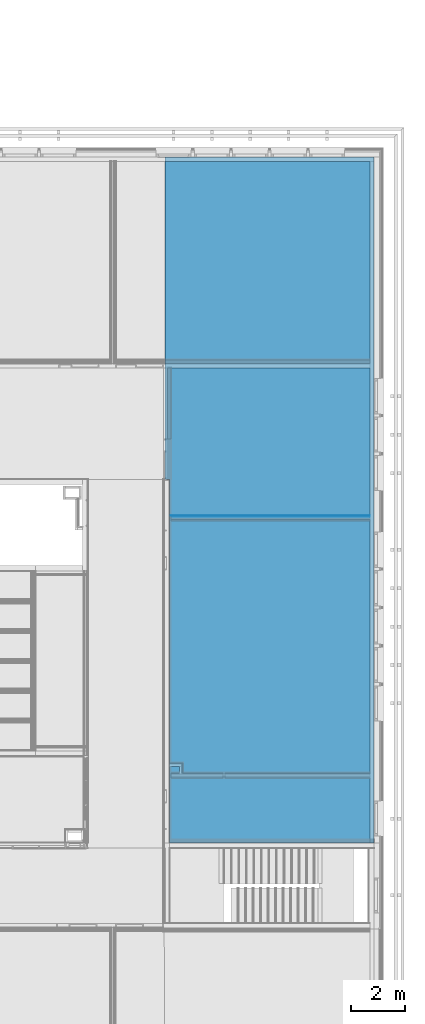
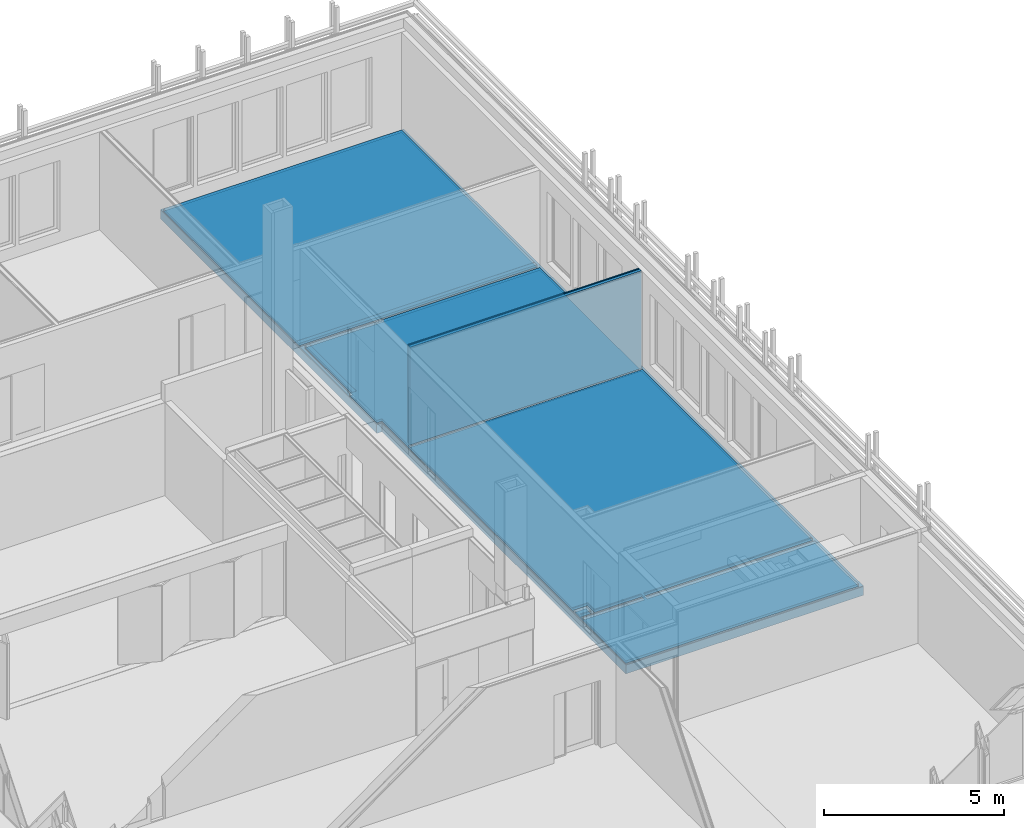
# One storey, part 121 of 139: 11 building element parts, 2 elements without a shape of their own.
"""IFC2X3 building model written with IfcOpenShell, lengths in millimetres."""

from ifc_helpers import new_model, entity, si_unit, converted_unit, derived_unit, money_unit, direction, frame, origin_with_axes, place, context, subcontext, project, spatial, faceted_brep, material, type_object, element, aggregate, save


model = new_model("IFC2X3")

# Units and contexts
model_context = context("Model", 3, precision=0.01, world=origin_with_axes(), true_north=direction((0.0, 1.0)))
body_context = subcontext(model_context, "Body", "Model", "MODEL_VIEW")
ifc_project = project(units=[si_unit("LENGTHUNIT", "METRE", prefix="MILLI"), si_unit("AREAUNIT", "SQUARE_METRE"), si_unit("VOLUMEUNIT", "CUBIC_METRE"), converted_unit("PLANEANGLEUNIT", "DEGREE", entity("IfcPlaneAngleMeasure", 0.0174532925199), si_unit("PLANEANGLEUNIT", "RADIAN"), dimensions=[0, 0, 0, 0, 0, 0, 0]), money_unit("EUR"), converted_unit("TIMEUNIT", "Year", entity("IfcTimeMeasure", 31556926.0), si_unit("TIMEUNIT", "SECOND"), dimensions=[0, 0, 1, 0, 0, 0, 0]), si_unit("MASSUNIT", "GRAM", prefix="KILO"), si_unit("THERMODYNAMICTEMPERATUREUNIT", "DEGREE_CELSIUS"), si_unit("LUMINOUSINTENSITYUNIT", "LUMEN"), si_unit("ENERGYUNIT", "JOULE", prefix="MEGA"), derived_unit("THERMALCONDUCTANCEUNIT", [(si_unit("POWERUNIT", "WATT"), 1), (si_unit("LENGTHUNIT", "METRE"), -1), (si_unit("THERMODYNAMICTEMPERATUREUNIT", "KELVIN"), -1)]), derived_unit("SPECIFICHEATCAPACITYUNIT", [(si_unit("ENERGYUNIT", "JOULE"), 1), (si_unit("MASSUNIT", "GRAM", prefix="KILO"), -1), (si_unit("THERMODYNAMICTEMPERATUREUNIT", "KELVIN"), -1)]), derived_unit("MASSDENSITYUNIT", [(si_unit("MASSUNIT", "GRAM", prefix="KILO"), 1), (si_unit("VOLUMEUNIT", "CUBIC_METRE"), -1)])], contexts=[model_context])

# Site, building, storey
site_placement = place(None, origin_with_axes())
site = spatial("IfcSite", under=ifc_project, at=site_placement, Name="Kolde pst 67a", CompositionType="ELEMENT")
building_placement = place(site_placement, origin_with_axes())
building = spatial("IfcBuilding", under=site, at=building_placement, Name="Riigigümnaasium", CompositionType="ELEMENT")
storey_placement = place(building_placement, frame((0.0, 0.0, 4600.0), z_axis=(0.0, 0.0, 1.0), x_axis=(1.0, 0.0, 0.0)))
storey = spatial("IfcBuildingStorey", under=building, at=storey_placement, Name="2. korrus", CompositionType="ELEMENT", Elevation=4600.0)

# Wall, building element parts
wall_type = type_object("IfcWallType", Name="SS-PK-10/4_vill100+2värv distantsliistudega 220", PredefinedType="NOTDEFINED")
wall_placement = place(storey_placement, frame((84439.9992602, 22889.6815988, -130.0), z_axis=(0.0, 0.0, 1.0), x_axis=(-1.0, 0.0, 0.0)))
wall = element("IfcWall", 1, at=wall_placement, inside=storey, type_object=wall_type, Name="Sisesein")
ifc_material_1 = material(Name="_KARKASS - puitpruss 100x50mm vertikaalne, samm 600mm, vahel mineraalvill, helineeldetegur αw = 1.0, ISOVER ACOUSTIC 100mm või samaväärne")
building_element_part_1_placement = place(wall_placement, origin_with_axes())
building_element_part_1 = element("IfcBuildingElementPart", 2, at=building_element_part_1_placement, material=ifc_material_1, Name="_KARKASS - puitpruss 100x50mm vertikaalne, samm 600mm, vahel mineraalvill, helineeldetegur αw = 1.0, ISOVER ACOUSTIC 100mm või samaväärne", context=body_context, shape_type="Brep", body=[
    faceted_brep([(7575.20456286, -160.0, 3436.9), (159.999932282, -160.0, 3436.9), (159.999932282, -160.0, 6.9), (7575.20456286, -160.0, 6.9), (159.999932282, -60.0, 3436.9), (7575.20456286, -60.0, 3436.9), (159.999932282, -60.0, 6.9), (7575.20456286, -60.0, 6.9)], [[[0, 1, 2, 3]], [[4, 1, 0, 5]], [[1, 4, 6, 2]], [[3, 2, 6, 7]], [[5, 0, 3, 7]], [[4, 5, 7, 6]]]),
])
ifc_material_2 = material(Name="_KARKASS- distantasliist")
building_element_part_2_placement = place(wall_placement, origin_with_axes())
building_element_part_2 = element("IfcBuildingElementPart", 3, at=building_element_part_2_placement, material=ifc_material_2, Name="_KARKASS- distantasliist", context=body_context, shape_type="Brep", body=[
    faceted_brep([(7575.20456286, -185.0, 3436.9), (159.999932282, -185.0, 3436.9), (159.999932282, -185.0, 127.0), (7575.20456286, -185.0, 127.0), (159.999932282, -160.0, 3436.9), (7575.20456286, -160.0, 3436.9), (159.999932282, -160.0, 127.0), (7575.20456286, -160.0, 127.0)], [[[0, 1, 2, 3]], [[4, 1, 0, 5]], [[1, 4, 6, 2]], [[3, 2, 6, 7]], [[5, 0, 3, 7]], [[4, 5, 7, 6]]]),
])
ifc_material_3 = material(Name="_PLAATMATERJAL - OSB3 plaat")
building_element_part_3_placement = place(wall_placement, origin_with_axes())
building_element_part_3 = element("IfcBuildingElementPart", 4, at=building_element_part_3_placement, material=ifc_material_3, Name="_PLAATMATERJAL - OSB3 plaat", context=body_context, shape_type="Brep", body=[
    faceted_brep([(7575.20456286, -200.0, 3436.9), (159.999932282, -200.0, 3436.9), (159.999932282, -200.0, 127.0), (7575.20456286, -200.0, 127.0), (159.999932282, -185.0, 3436.9), (7575.20456286, -185.0, 3436.9), (159.999932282, -185.0, 127.0), (7575.20456286, -185.0, 127.0)], [[[0, 1, 2, 3]], [[4, 1, 0, 5]], [[1, 4, 6, 2]], [[3, 2, 6, 7]], [[5, 0, 3, 7]], [[4, 5, 7, 6]]]),
])
ifc_material_4 = material(Name="_PLAATMATERJAL - tuletõkkekipsplaat, Knauf Red GKF või samaväärne")
building_element_part_4_placement = place(wall_placement, origin_with_axes())
building_element_part_4 = element("IfcBuildingElementPart", 5, at=building_element_part_4_placement, material=ifc_material_4, Name="_PLAATMATERJAL - tuletõkkekipsplaat, Knauf Red GKF või samaväärne", context=body_context, shape_type="Brep", body=[
    faceted_brep([(7575.20456286, -215.0, 3436.9), (159.999932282, -215.0, 3436.9), (159.999932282, -215.0, 127.0), (7575.20456286, -215.0, 127.0), (159.999932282, -200.0, 3436.9), (7575.20456286, -200.0, 3436.9), (159.999932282, -200.0, 127.0), (7575.20456286, -200.0, 127.0)], [[[0, 1, 2, 3]], [[4, 1, 0, 5]], [[1, 4, 6, 2]], [[3, 2, 6, 7]], [[5, 0, 3, 7]], [[4, 5, 7, 6]]]),
])
ifc_material_5 = material(Name="_VIIMISTLUSKIHT - viimistlus vastavalt SA osale")
building_element_part_5_placement = place(wall_placement, origin_with_axes())
building_element_part_5 = element("IfcBuildingElementPart", 6, at=building_element_part_5_placement, material=ifc_material_5, Name="_VIIMISTLUSKIHT - viimistlus vastavalt SA osale", context=body_context, shape_type="Brep", body=[
    faceted_brep([(7575.20456286, -220.0, 3436.9), (159.999932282, -220.0, 3436.9), (159.999932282, -220.0, 130.0), (7575.20456286, -220.0, 130.0), (159.999932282, -215.0, 3436.9), (7575.20456286, -215.0, 3436.9), (159.999932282, -215.0, 130.0), (7575.20456286, -215.0, 130.0)], [[[0, 1, 2, 3]], [[4, 1, 0, 5]], [[1, 4, 6, 2]], [[3, 2, 6, 7]], [[5, 0, 3, 7]], [[4, 5, 7, 6]]]),
])
aggregate(wall, [building_element_part_1, building_element_part_2, building_element_part_3, building_element_part_4, building_element_part_5])

# Slab, building element parts
slab_type = type_object("IfcSlabType", Name="VL-CLT-30/1_+PVC kate 443", PredefinedType="NOTDEFINED")
slab_placement = place(storey_placement, frame((84439.9993279, 36439.9996998, 0.0), z_axis=(0.0, 0.0, 1.0), x_axis=(1.0, 0.0, 0.0)))
slab = element("IfcSlab", 7, at=slab_placement, inside=storey, type_object=slab_type, Name="VAHELAGI", PredefinedType="NOTDEFINED")
building_element_part_6_placement = place(slab_placement, origin_with_axes())
building_element_part_6 = element("IfcBuildingElementPart", 8, at=building_element_part_6_placement, material=ifc_material_5, Name="_VIIMISTLUSKIHT - viimistlus vastavalt SA osale", context=body_context, shape_type="Brep", body=[
    faceted_brep([(-160.0, -7850.0, -3.0), (-160.0, -7850.0, 0.0), (-160.0, -13335.318101, 0.0), (-160.0, -13335.318101, -3.0), (-7559.99753894, -7850.0, 0.0), (-7559.99753894, -7850.0, -3.0), (-7560.00206115, -10490.0002261, 0.0), (-7789.99726487, -10489.9998321, 0.0), (-7789.99726487, -11999.9997271, 0.0), (-7620.31688052, -11999.9997271, 0.0), (-7620.31688052, -25539.9624861, 0.0), (-200.001288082, -25540.0377579, 0.0), (-160.0, -25540.0377591, 0.0), (-160.0, -23130.0462758, 0.0), (-5549.33080952, -23130.0477965, 0.0), (-5549.33595393, -22935.0477965, 0.0), (-160.0, -22935.0462758, 0.0), (-160.0, -13545.318101, 0.0), (-7575.20463058, -13545.318101, 0.0), (-7575.20463058, -13335.318101, 0.0), (-7575.20475473, -22935.0483681, 0.0), (-7249.99134659, -22935.0482763, 0.0), (-7249.99141572, -22690.0483546, 0.0), (-7620.00463058, -22690.0483546, 0.0), (-7620.00463058, -22565.0483546, 0.0), (-7124.99145099, -22565.0483546, 0.0), (-7124.99144769, -22577.5483546, 0.0), (-7124.99134745, -22935.0482411, 0.0), (-5624.33595396, -22935.0478176, 0.0), (-5624.33080955, -23130.0478176, 0.0), (-7575.20469971, -23130.0483681, 0.0), (-7575.20463058, -13335.318101, -3.0), (-7575.20463058, -13545.318101, -3.0), (-160.0, -13545.318101, -3.0), (-160.0, -22935.0462758, -3.0), (-5549.33595393, -22935.0477965, -3.0), (-5549.33080952, -23130.0477965, -3.0), (-160.0, -23130.0462758, -3.0), (-160.0, -25540.0377591, -3.0), (-200.001288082, -25540.0377579, -3.0), (-7620.31688052, -25539.9624861, -3.0), (-7620.31688052, -11999.9997271, -3.0), (-7789.99726487, -11999.9997271, -3.0), (-7789.99726487, -10489.9998321, -3.0), (-7560.00206115, -10490.0002261, -3.0), (-7575.20475473, -22935.0483681, -3.0), (-7575.20469971, -23130.0483681, -3.0), (-5624.33080955, -23130.0478176, -3.0), (-5624.33595396, -22935.0478176, -3.0), (-7124.99134745, -22935.0482411, -3.0), (-7124.99144769, -22577.5483546, -3.0), (-7124.99145099, -22565.0483546, -3.0), (-7620.00463058, -22565.0483546, -3.0), (-7620.00463058, -22690.0483546, -3.0), (-7249.99141572, -22690.0483546, -3.0), (-7249.99134659, -22935.0482763, -3.0)], [[[0, 1, 2, 3]], [[4, 1, 0, 5]], [[1, 4, 6, 7, 8, 9, 10, 11, 12, 13, 14, 15, 16, 17, 18, 19, 2], [20, 21, 22, 23, 24, 25, 26, 27, 28, 29, 30]], [[3, 2, 19, 31]], [[5, 0, 3, 31, 32, 33, 34, 35, 36, 37, 38, 39, 40, 41, 42, 43, 44], [45, 46, 47, 48, 49, 50, 51, 52, 53, 54, 55]], [[4, 5, 44, 6]], [[6, 44, 43, 7]], [[7, 43, 42, 8]], [[42, 41, 9, 8]], [[41, 40, 10, 9]], [[40, 39, 11, 10]], [[38, 12, 11, 39]], [[37, 13, 12, 38]], [[14, 13, 37, 36]], [[35, 15, 14, 36]], [[34, 16, 15, 35]], [[33, 17, 16, 34]], [[18, 17, 33, 32]], [[18, 32, 31, 19]], [[55, 21, 20, 45]], [[21, 55, 54, 22]], [[22, 54, 53, 23]], [[52, 24, 23, 53]], [[25, 24, 52, 51]], [[50, 26, 25, 51]], [[49, 27, 26, 50]], [[28, 27, 49, 48]], [[28, 48, 47, 29]], [[30, 29, 47, 46]], [[45, 20, 30, 46]]]),
    faceted_brep([(-7789.99726487, -7560.0, 0.0), (-160.0, -7560.0, 0.0), (-160.0, -160.0, 0.0), (-7789.99726487, -160.0, 0.0), (-160.0, -7560.0, -3.0), (-7789.99726487, -7560.0, -3.0), (-160.0, -160.0, -3.0), (-7789.99726487, -160.0, -3.0)], [[[0, 1, 2, 3]], [[4, 1, 0, 5]], [[1, 4, 6, 2]], [[3, 2, 6, 7]], [[5, 0, 3, 7]], [[4, 5, 7, 6]]]),
])
ifc_material_6 = material(Name="_PEALEVALUKIHT - raudbetoonplaat vastavalt EK osale, vajadusel põrandküte")
building_element_part_7_placement = place(slab_placement, origin_with_axes())
building_element_part_7 = element("IfcBuildingElementPart", 9, at=building_element_part_7_placement, material=ifc_material_6, Name="_PEALEVALUKIHT - raudbetoonplaat vastavalt EK osale, vajadusel põrandküte", context=body_context, shape_type="Brep", body=[
    faceted_brep([(-160.0, -7850.0, -83.0), (-160.0, -7850.0, -3.0), (-160.0, -13390.318101, -3.0), (-160.0, -13390.318101, -83.0), (-7689.99753894, -7850.0, -3.0), (-7689.99753894, -7850.0, -83.0), (-7690.00206115, -10490.0000034, -3.0), (-7789.99726487, -10489.9998321, -3.0), (-7789.99726487, -11999.9997271, -3.0), (-7620.31688052, -11999.9997271, -3.0), (-7620.31688052, -25539.9624861, -3.0), (-200.001288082, -25540.0377579, -3.0), (-160.0, -25540.0377591, -3.0), (-160.0, -23130.0462758, -3.0), (-5549.33080952, -23130.0477965, -3.0), (-5549.33489867, -22975.0477965, -3.0), (-160.0, -22975.0462758, -3.0), (-160.0, -13490.318101, -3.0), (-7575.20463058, -13490.318101, -3.0), (-7575.20463058, -13390.318101, -3.0), (-7575.20469971, -23130.0483681, -3.0), (-7575.20474344, -22975.0483681, -3.0), (-7249.99133531, -22975.0482763, -3.0), (-7249.99141572, -22690.0483546, -3.0), (-7620.00463058, -22690.0483546, -3.0), (-7620.00463058, -22590.0483546, -3.0), (-7149.99144394, -22590.0483546, -3.0), (-7149.99141586, -22690.0483546, -3.0), (-7149.99133559, -22975.0482481, -3.0), (-5624.33489869, -22975.0478176, -3.0), (-5624.33080955, -23130.0478176, -3.0), (-7575.20463058, -13390.318101, -83.0), (-7575.20463058, -13490.318101, -83.0), (-160.0, -13490.318101, -83.0), (-160.0, -22975.0462758, -83.0), (-5549.33489867, -22975.0477965, -83.0), (-5549.33080952, -23130.0477965, -83.0), (-160.0, -23130.0462758, -83.0), (-160.0, -25540.0377591, -83.0), (-200.001288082, -25540.0377579, -83.0), (-7620.31688052, -25539.9624861, -83.0), (-7620.31688052, -11999.9997271, -83.0), (-7789.99726487, -11999.9997271, -83.0), (-7789.99726487, -10489.9998321, -83.0), (-7690.00206115, -10490.0000034, -83.0), (-5624.33080955, -23130.0478176, -83.0), (-5624.33489869, -22975.0478176, -83.0), (-7149.9913356, -22975.0482481, -83.0), (-7149.99141587, -22690.0483546, -83.0), (-7149.99144394, -22590.0483546, -83.0), (-7620.00463058, -22590.0483546, -83.0), (-7620.00463058, -22690.0483546, -83.0), (-7249.99141572, -22690.0483546, -83.0), (-7249.99133531, -22975.0482763, -83.0), (-7575.20474344, -22975.0483681, -83.0), (-7575.20469971, -23130.0483681, -83.0)], [[[0, 1, 2, 3]], [[4, 1, 0, 5]], [[1, 4, 6, 7, 8, 9, 10, 11, 12, 13, 14, 15, 16, 17, 18, 19, 2], [20, 21, 22, 23, 24, 25, 26, 27, 28, 29, 30]], [[3, 2, 19, 31]], [[5, 0, 3, 31, 32, 33, 34, 35, 36, 37, 38, 39, 40, 41, 42, 43, 44], [45, 46, 47, 48, 49, 50, 51, 52, 53, 54, 55]], [[4, 5, 44, 6]], [[7, 6, 44, 43]], [[7, 43, 42, 8]], [[42, 41, 9, 8]], [[41, 40, 10, 9]], [[40, 39, 11, 10]], [[38, 12, 11, 39]], [[37, 13, 12, 38]], [[14, 13, 37, 36]], [[14, 36, 35, 15]], [[34, 16, 15, 35]], [[33, 17, 16, 34]], [[18, 17, 33, 32]], [[19, 18, 32, 31]], [[20, 55, 54, 21]], [[53, 22, 21, 54]], [[22, 53, 52, 23]], [[23, 52, 51, 24]], [[25, 24, 51, 50]], [[26, 25, 50, 49]], [[48, 27, 26, 49]], [[47, 28, 27, 48]], [[29, 28, 47, 46]], [[46, 45, 30, 29]], [[20, 30, 45, 55]]]),
    faceted_brep([(-7789.99726487, -7690.0, -3.0), (-160.0, -7690.0, -3.0), (-160.0, -160.0, -3.0), (-7789.99726487, -160.0, -3.0), (-160.0, -7690.0, -83.0), (-7789.99726487, -7690.0, -83.0), (-160.0, -160.0, -83.0), (-7789.99726487, -160.0, -83.0)], [[[0, 1, 2, 3]], [[4, 1, 0, 5]], [[1, 4, 6, 2]], [[3, 2, 6, 7]], [[5, 0, 3, 7]], [[4, 5, 7, 6]]]),
])
ifc_material_7 = material(Name="_ERALDUSKIHT - polüetüleenkile 0,2mm, vuugid ülekattega 200mm ja teibitud")
building_element_part_8_placement = place(slab_placement, origin_with_axes())
building_element_part_8 = element("IfcBuildingElementPart", 10, at=building_element_part_8_placement, material=ifc_material_7, Name="_ERALDUSKIHT - polüetüleenkile 0,2mm, vuugid ülekattega 200mm ja teibitud", context=body_context, shape_type="Brep", body=[
    faceted_brep([(-7575.20474344, -22975.0483681, -83.0), (-7575.20474344, -22975.0483681, -83.1), (-7249.99133531, -22975.0482763, -83.1), (-7249.99133531, -22975.0482763, -83.0), (-7575.20469971, -23130.0483681, -83.1), (-7575.20469971, -23130.0483681, -83.0), (-7620.31688052, -25539.9624861, -83.1), (-7620.31688052, -11999.9997271, -83.1), (-7789.99726487, -11999.9997271, -83.1), (-7789.99726487, -10489.9998321, -83.1), (-7690.00206115, -10490.0000034, -83.1), (-7689.99753894, -7850.0, -83.1), (-160.0, -7850.0, -83.1), (-160.0, -13390.318101, -83.1), (-7575.20463058, -13390.318101, -83.1), (-7575.20463058, -13490.318101, -83.1), (-160.0, -13490.318101, -83.1), (-160.0, -22975.0462758, -83.1), (-5549.33489867, -22975.0477965, -83.1), (-5549.33080952, -23130.0477965, -83.1), (-160.0, -23130.0462758, -83.1), (-160.0, -25540.0377581, -83.1), (-200.001288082, -25540.0377579, -83.1), (-5624.33080955, -23130.0478176, -83.1), (-5624.33489869, -22975.0478176, -83.1), (-7149.9913356, -22975.0482481, -83.1), (-7149.99141572, -22690.0483546, -83.1), (-7149.99144394, -22590.0483546, -83.1), (-7620.00463058, -22590.0483546, -83.1), (-7620.00463058, -22690.0483546, -83.1), (-7249.99141572, -22690.0483546, -83.1), (-7249.99141572, -22690.0483546, -83.0), (-7620.31688052, -11999.9997271, -83.0), (-7620.31688052, -25539.9624861, -83.0), (-200.001288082, -25540.0377579, -83.0), (-160.0, -25540.0377581, -83.0), (-160.0, -23130.0462758, -83.0), (-5549.33080952, -23130.0477965, -83.0), (-5549.33489867, -22975.0477965, -83.0), (-160.0, -22975.0462758, -83.0), (-160.0, -13490.318101, -83.0), (-7575.20463058, -13490.318101, -83.0), (-7575.20463058, -13390.318101, -83.0), (-160.0, -13390.318101, -83.0), (-160.0, -7850.0, -83.0), (-7689.99753894, -7850.0, -83.0), (-7690.00206115, -10490.0000034, -83.0), (-7789.99726487, -10489.9998321, -83.0), (-7789.99726487, -11999.9997271, -83.0), (-7620.00463058, -22690.0483546, -83.0), (-7620.00463058, -22590.0483546, -83.0), (-7149.99144394, -22590.0483546, -83.0), (-7149.99141572, -22690.0483546, -83.0), (-7149.9913356, -22975.0482481, -83.0), (-5624.33489869, -22975.0478176, -83.0), (-5624.33080955, -23130.0478176, -83.0)], [[[0, 1, 2, 3]], [[4, 1, 0, 5]], [[6, 7, 8, 9, 10, 11, 12, 13, 14, 15, 16, 17, 18, 19, 20, 21, 22], [1, 4, 23, 24, 25, 26, 27, 28, 29, 30, 2]], [[3, 2, 30, 31]], [[32, 33, 34, 35, 36, 37, 38, 39, 40, 41, 42, 43, 44, 45, 46, 47, 48], [5, 0, 3, 31, 49, 50, 51, 52, 53, 54, 55]], [[4, 5, 55, 23]], [[6, 33, 32, 7]], [[48, 8, 7, 32]], [[8, 48, 47, 9]], [[10, 9, 47, 46]], [[11, 10, 46, 45]], [[11, 45, 44, 12]], [[13, 12, 44, 43]], [[42, 14, 13, 43]], [[15, 14, 42, 41]], [[15, 41, 40, 16]], [[17, 16, 40, 39]], [[38, 18, 17, 39]], [[19, 18, 38, 37]], [[20, 19, 37, 36]], [[35, 21, 20, 36]], [[33, 6, 22, 21, 35, 34]], [[24, 23, 55, 54]], [[25, 24, 54, 53]], [[52, 26, 25, 53]], [[27, 26, 52, 51]], [[50, 28, 27, 51]], [[29, 28, 50, 49]], [[30, 29, 49, 31]]]),
    faceted_brep([(-7789.99726487, -160.0, -83.1), (-7789.99726487, -7690.0, -83.1), (-7789.99726487, -7690.0, -83.0), (-7789.99726487, -160.0, -83.0), (-160.0, -160.0, -83.1), (-160.0, -7690.0, -83.1), (-160.0, -7690.0, -83.0), (-160.0, -160.0, -83.0)], [[[0, 1, 2, 3]], [[1, 0, 4, 5]], [[2, 1, 5, 6]], [[3, 2, 6, 7]], [[0, 3, 7, 4]], [[5, 4, 7, 6]]]),
])
ifc_material_8 = material(Name="_ISOLATSIOON - löögimüraisolatsioon, mineraalvill, koormustaluvus min 20 kPa, dünaamiline jäikus 16 MN/m³, ISOVER FLO või samaväärne")
building_element_part_9_placement = place(slab_placement, origin_with_axes())
building_element_part_9 = element("IfcBuildingElementPart", 11, at=building_element_part_9_placement, material=ifc_material_8, Name="_ISOLATSIOON - löögimüraisolatsioon, mineraalvill, koormustaluvus min 20 kPa, dünaamiline jäikus 16 MN/m³, ISOVER FLO või samaväärne", context=body_context, shape_type="Brep", body=[
    faceted_brep([(-160.0, -7850.0, -123.1), (-160.0, -7850.0, -83.1), (-160.0, -13390.318101, -83.1), (-160.0, -13390.318101, -123.1), (-7689.99753894, -7850.0, -83.1), (-7689.99753894, -7850.0, -123.1), (-7690.00206115, -10490.0000034, -83.1), (-7789.99726487, -10489.9998321, -83.1), (-7789.99726487, -11999.9997271, -83.1), (-7620.31688052, -11999.9997271, -83.1), (-7620.31688052, -25539.9624861, -83.1), (-200.001288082, -25540.0377579, -83.1), (-160.0, -25540.0377591, -83.1), (-160.0, -23130.0462758, -83.1), (-5549.33080952, -23130.0477965, -83.1), (-5549.33489867, -22975.0477965, -83.1), (-160.0, -22975.0462758, -83.1), (-160.0, -13490.318101, -83.1), (-7575.20463058, -13490.318101, -83.1), (-7575.20463058, -13390.318101, -83.1), (-7575.20469971, -23130.0483681, -83.1), (-7575.20474344, -22975.0483681, -83.1), (-5624.33489869, -22975.0478176, -83.1), (-5624.33080955, -23130.0478176, -83.1), (-7575.20463058, -13390.318101, -123.1), (-7575.20463058, -13490.318101, -123.1), (-160.0, -13490.318101, -123.1), (-160.0, -22975.0462758, -123.1), (-5549.33489867, -22975.0477965, -123.1), (-5549.33080952, -23130.0477965, -123.1), (-160.0, -23130.0462758, -123.1), (-160.0, -25540.0377591, -123.1), (-200.001288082, -25540.0377579, -123.1), (-7620.31688052, -25539.9624861, -123.1), (-7620.31688052, -11999.9997271, -123.1), (-7789.99726487, -11999.9997271, -123.1), (-7789.99726487, -10489.9998321, -123.1), (-7690.00206115, -10490.0000034, -123.1), (-5624.33080955, -23130.0478176, -123.1), (-5624.33489869, -22975.0478176, -123.1), (-7575.20474344, -22975.0483681, -123.1), (-7575.20469971, -23130.0483681, -123.1)], [[[0, 1, 2, 3]], [[4, 1, 0, 5]], [[1, 4, 6, 7, 8, 9, 10, 11, 12, 13, 14, 15, 16, 17, 18, 19, 2], [20, 21, 22, 23]], [[3, 2, 19, 24]], [[5, 0, 3, 24, 25, 26, 27, 28, 29, 30, 31, 32, 33, 34, 35, 36, 37], [38, 39, 40, 41]], [[4, 5, 37, 6]], [[7, 6, 37, 36]], [[7, 36, 35, 8]], [[35, 34, 9, 8]], [[34, 33, 10, 9]], [[33, 32, 11, 10]], [[31, 12, 11, 32]], [[30, 13, 12, 31]], [[14, 13, 30, 29]], [[14, 29, 28, 15]], [[27, 16, 15, 28]], [[26, 17, 16, 27]], [[18, 17, 26, 25]], [[19, 18, 25, 24]], [[20, 41, 40, 21]], [[22, 21, 40, 39]], [[39, 38, 23, 22]], [[20, 23, 38, 41]]]),
    faceted_brep([(-7789.99726487, -7690.0, -83.1), (-160.0, -7690.0, -83.1), (-160.0, -160.0, -83.1), (-7789.99726487, -160.0, -83.1), (-160.0, -7690.0, -123.1), (-7789.99726487, -7690.0, -123.1), (-160.0, -160.0, -123.1), (-7789.99726487, -160.0, -123.1)], [[[0, 1, 2, 3]], [[4, 1, 0, 5]], [[1, 4, 6, 2]], [[3, 2, 6, 7]], [[5, 0, 3, 7]], [[4, 5, 7, 6]]]),
])
ifc_material_9 = material(Name="_SOOJUSTUS - vahtpolüstüreenplaadid EPS 80, survetugevus min 80kPa, soojuserijuhtivus λD<0,038 W/(mK)")
building_element_part_10_placement = place(slab_placement, origin_with_axes())
building_element_part_10 = element("IfcBuildingElementPart", 12, at=building_element_part_10_placement, material=ifc_material_9, Name="_SOOJUSTUS - vahtpolüstüreenplaadid EPS 80, survetugevus min 80kPa, soojuserijuhtivus λD<0,038 W/(mK)", context=body_context, shape_type="Brep", body=[
    faceted_brep([(-7789.99726487, 0.0, -143.1), (-7789.99726487, 0.0, -123.1), (0.0, 0.0, -123.1), (0.0, 0.0, -143.1), (-7789.99726487, -11999.9997271, -143.1), (-7789.99726487, -11999.9997271, -123.1), (-7620.31688052, -11999.9997271, -123.1), (-7620.31688052, -25539.9624861, -123.1), (-200.001288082, -25540.0377579, -123.1), (0.0, -25540.0377591, -123.1), (0.0, -25540.0377591, -143.1), (-200.001288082, -25540.0377579, -143.1), (-7620.31688052, -25539.9624861, -143.1), (-7620.31688052, -11999.9997271, -143.1)], [[[0, 1, 2, 3]], [[4, 5, 1, 0]], [[2, 1, 5, 6, 7, 8, 9]], [[3, 2, 9, 10]], [[3, 10, 11, 12, 13, 4, 0]], [[13, 6, 5, 4]], [[12, 7, 6, 13]], [[11, 8, 7, 12]], [[10, 9, 8, 11]]]),
])
ifc_material_10 = material(Name="_KANDETARIND - CLT ristkihtliimpuit vastavalt EK osale, CLT paigaldusvuugid teibitakse ROTHOBLAAS teibiga")
building_element_part_11_placement = place(slab_placement, origin_with_axes())
building_element_part_11 = element("IfcBuildingElementPart", 13, at=building_element_part_11_placement, material=ifc_material_10, Name="_KANDETARIND - CLT ristkihtliimpuit vastavalt EK osale, CLT paigaldusvuugid teibitakse ROTHOBLAAS teibiga", context=body_context, shape_type="Brep", body=[
    faceted_brep([(0.0, 0.0, -143.1), (0.0, 0.0, -443.1), (-7789.99726487, 0.0, -443.1), (-7789.99726487, 0.0, -143.1), (0.0, -25540.0377591, -143.1), (0.0, -25540.0377591, -443.1), (-200.001288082, -25540.0377579, -443.1), (-7620.31688052, -25539.9624861, -443.1), (-7620.31688052, -11999.9997271, -443.1), (-7789.99726487, -11999.9997271, -443.1), (-7789.99726487, -11999.9997271, -143.1), (-7620.31688052, -11999.9997271, -143.1), (-7620.31688052, -25539.9624861, -143.1), (-200.001288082, -25540.0377579, -143.1)], [[[0, 1, 2, 3]], [[4, 5, 1, 0]], [[2, 1, 5, 6, 7, 8, 9]], [[3, 2, 9, 10]], [[4, 0, 3, 10, 11, 12, 13]], [[13, 6, 5, 4]], [[12, 7, 6, 13]], [[11, 8, 7, 12]], [[10, 9, 8, 11]]]),
])
aggregate(slab, [building_element_part_6, building_element_part_7, building_element_part_8, building_element_part_9, building_element_part_10, building_element_part_11])

save(model, "model.ifc")
